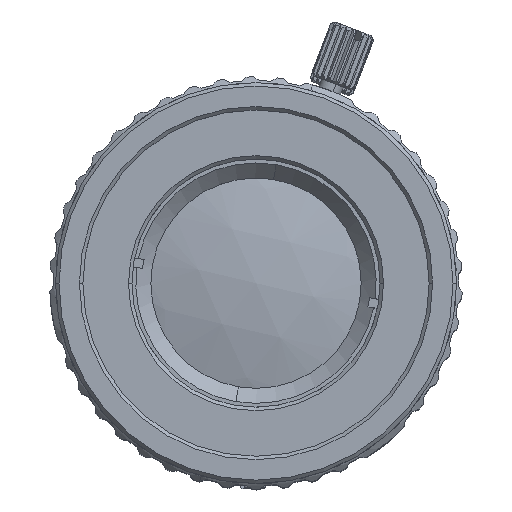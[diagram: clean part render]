
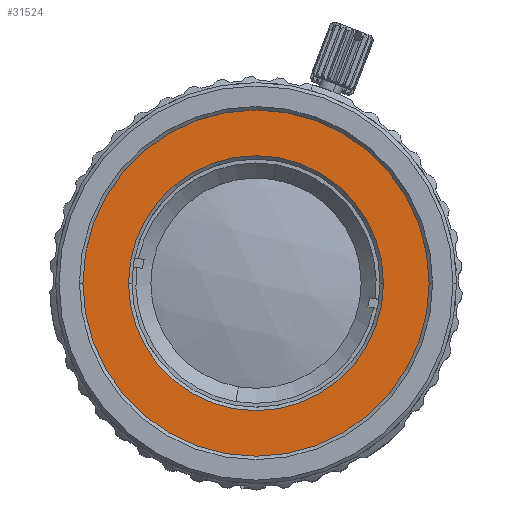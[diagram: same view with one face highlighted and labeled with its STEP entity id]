
A CAD part, top view. The second image highlights one B-rep face of the part: STEP entity #31524.
In plain terms, the highlighted planar face has unit normal (0, 0, 1).
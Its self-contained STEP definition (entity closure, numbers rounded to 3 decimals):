
#18958=CARTESIAN_POINT('',(0.,0.,37.138));
#18959=DIRECTION('',(0.,0.,-1.));
#18960=DIRECTION('',(-1.,0.,0.));
#18961=AXIS2_PLACEMENT_3D('',#18958,#18959,#18960);
#18963=CARTESIAN_POINT('',(0.,0.,37.138));
#18964=DIRECTION('',(0.,0.,-1.));
#18965=DIRECTION('',(1.,0.,0.));
#18966=AXIS2_PLACEMENT_3D('',#18963,#18964,#18965);
#18968=CARTESIAN_POINT('',(0.,0.,37.138));
#18969=DIRECTION('',(0.,0.,1.));
#18970=DIRECTION('',(-1.,0.,0.));
#18971=AXIS2_PLACEMENT_3D('',#18968,#18969,#18970);
#18973=CARTESIAN_POINT('',(0.,0.,37.138));
#18974=DIRECTION('',(0.,0.,1.));
#18975=DIRECTION('',(1.,0.,0.));
#18976=AXIS2_PLACEMENT_3D('',#18973,#18974,#18975);
#20076=CARTESIAN_POINT('',(15.48,0.,37.138));
#20077=VERTEX_POINT('',#20076);
#20078=CARTESIAN_POINT('',(-15.48,0.,37.138));
#20079=VERTEX_POINT('',#20078);
#20080=CARTESIAN_POINT('',(-11.03,0.,37.138));
#20081=CARTESIAN_POINT('',(11.03,0.,37.138));
#20082=VERTEX_POINT('',#20080);
#20083=VERTEX_POINT('',#20081);
#31509=CARTESIAN_POINT('',(0.,0.,37.138));
#31510=DIRECTION('',(0.,0.,1.));
#31511=DIRECTION('',(-1.,0.,0.));
#31512=AXIS2_PLACEMENT_3D('',#31509,#31510,#31511);
#31513=PLANE('',#31512);
#31514=ORIENTED_EDGE('',*,*,#31502,.T.);
#31515=ORIENTED_EDGE('',*,*,#31489,.T.);
#31516=EDGE_LOOP('',(#31514,#31515));
#31517=FACE_OUTER_BOUND('',#31516,.F.);
#31519=ORIENTED_EDGE('',*,*,#31518,.T.);
#31521=ORIENTED_EDGE('',*,*,#31520,.T.);
#31522=EDGE_LOOP('',(#31519,#31521));
#31523=FACE_BOUND('',#31522,.F.);
#31524=ADVANCED_FACE('',(#31517,#31523),#31513,.T.);
#18962=CIRCLE('',#18961,15.48);
#18967=CIRCLE('',#18966,15.48);
#18972=CIRCLE('',#18971,11.03);
#18977=CIRCLE('',#18976,11.03);
#31489=EDGE_CURVE('',#20077,#20079,#18967,.T.);
#31502=EDGE_CURVE('',#20079,#20077,#18962,.T.);
#31518=EDGE_CURVE('',#20082,#20083,#18972,.T.);
#31520=EDGE_CURVE('',#20083,#20082,#18977,.T.);
